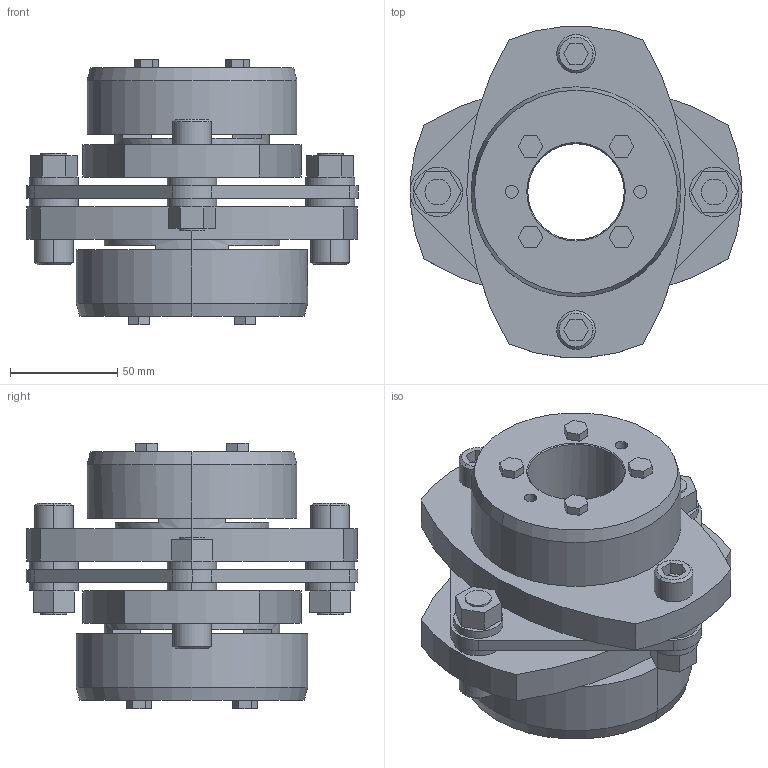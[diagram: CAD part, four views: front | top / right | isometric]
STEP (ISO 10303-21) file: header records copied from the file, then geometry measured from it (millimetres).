
FILE_DESCRIPTION((''),'2;1');
FILE_NAME('LCS-155T7-45×55.stp','2011-09-08T10:43:36',(''),(''),'AutoCAD STEP 2000i','AutoCAD 2000i',', , ');
FILE_SCHEMA(('CONFIG_CONTROL_DESIGN'));
Length unit declared in the file: millimetre
Products named in the file (7): LCS-155T7-45×55; 忣兜1; LC155T7-T055; LC155T7-T050; LC155T7-T045-1; LC155T7-T045; LCS155-ITA
Assembly tree (6 placements, depth 2):
  LCS-155T7-45×55
    忣兜1
    LC155T7-T055
    LC155T7-T050
    LC155T7-T045-1
    LC155T7-T045
    LCS155-ITA
Bounding box: 155 x 154.9 x 124 mm (x, y, z)
Volume: 850567.6 mm3; surface area: 148411.7 mm2
Topology: 1 solids, 1 shells, 246 faces, 606 edges, 398 vertices
Faces by surface type: plane 146, cylinder 80, cone 20
Entity records: 7499 total; most frequent: DIRECTION 1310, CARTESIAN_POINT 1257, ORIENTED_EDGE 1212, EDGE_CURVE 606, AXIS2_PLACEMENT_3D 451, VECTOR 408, LINE 408, VERTEX_POINT 398
